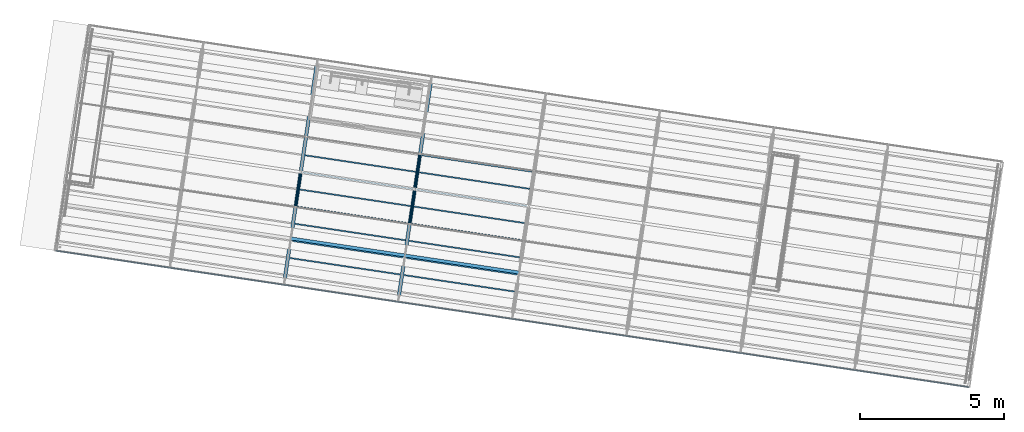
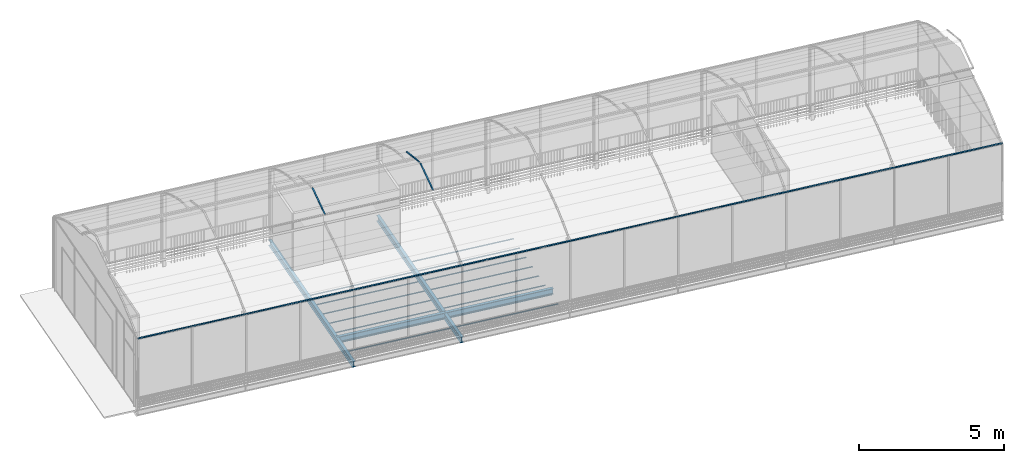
# One storey, part 6 of 34: 19 beams, 4 members, 1 element without a shape of its own.
"""IFC4 building model written with IfcOpenShell, lengths in metres."""

from ifc_helpers import new_model, si_unit, direction, frame, origin_with_axes, place, context, subcontext, project, spatial, polyline, rectangle, i_section, outline, extrude, material, material_profile, profile_set, profile_usage, type_object, element, aggregate, save


model = new_model("IFC4")

# Units and contexts
model_context = context("Model", 3, precision=1e-05, world=origin_with_axes(), true_north=direction((0.0, 1.0)))
body_context = subcontext(model_context, "Body", "Model", "MODEL_VIEW")
ifc_project = project(units=[si_unit("VOLUMEUNIT", "CUBIC_METRE"), si_unit("LENGTHUNIT", "METRE"), si_unit("AREAUNIT", "SQUARE_METRE")], contexts=[model_context])

# Site, building, storey
site_placement = place(None, origin_with_axes())
site = spatial("IfcSite", under=ifc_project, at=site_placement, Name="Lares · Rua das Mercês · artigo 4771")
building_placement = place(site_placement, frame((12.0, 10.2, 13.9), z_axis=(0.0, 0.0, 1.0), x_axis=(0.989015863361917, -0.147809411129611, 0.0)))
building = spatial("IfcBuilding", under=site, at=building_placement, Name="Casa Sobreposta")
storey_placement = place(building_placement, frame((0.0, 0.0, 3.24), z_axis=(0.0, 0.0, 1.0), x_axis=(1.0, 0.0, 0.0)))
storey = spatial("IfcBuildingStorey", under=building, at=storey_placement, Name="01 · Jardim de inverno", Elevation=17.14)

# Beams
ifc_material_1 = material(Name="Aço pintado / Stahl lackiert", Category="steel")
ifc_material_profile_1 = material_profile(ifc_material_1, i_section(OverallWidth=0.12, OverallDepth=0.24, WebThickness=0.0062, FlangeThickness=0.0098))
ifc_profile_set_1 = profile_set([ifc_material_profile_1], Name="IPE240")
ifc_profile_usage_1 = profile_usage(ifc_profile_set_1)
beam_type = type_object("IfcBeamType", Name="IPE240 / steel", PredefinedType="NOTDEFINED", material=ifc_profile_set_1)
beam_1_placement = place(storey_placement, frame((8.0, 0.12, -0.152), z_axis=(1.0, 0.0, 0.0), x_axis=(0.0, -1.0, 0.0)))
element("IfcBeam", 1, at=beam_1_placement, inside=storey, type_object=beam_type, material=ifc_profile_usage_1, Name="Viga longitudinal 8 / 0.12", context=body_context, shape_type="SweptSolid", body=[
    extrude(i_section(OverallWidth=0.12, OverallDepth=0.24, WebThickness=0.0062, FlangeThickness=0.0098), origin_with_axes(), (0.0, 0.0, 1.0), 4.0),
])
ifc_profile_usage_2 = profile_usage(ifc_profile_set_1)
beam_2_placement = place(storey_placement, frame((12.0, 0.12, -0.152), z_axis=(1.0, 0.0, 0.0), x_axis=(0.0, -1.0, 0.0)))
element("IfcBeam", 2, at=beam_2_placement, inside=storey, type_object=beam_type, material=ifc_profile_usage_2, Name="Viga longitudinal 12 / 0.12", context=body_context, shape_type="SweptSolid", body=[
    extrude(i_section(OverallWidth=0.12, OverallDepth=0.24, WebThickness=0.0062, FlangeThickness=0.0098), origin_with_axes(), (0.0, 0.0, 1.0), 4.0),
])
ifc_profile_usage_3 = profile_usage(ifc_profile_set_1)
beam_3_placement = place(storey_placement, frame((8.0, -1.5, -0.152), z_axis=(0.0, 1.0, 0.0), x_axis=(1.0, 0.0, 0.0)))
element("IfcBeam", 3, at=beam_3_placement, inside=storey, type_object=beam_type, material=ifc_profile_usage_3, Name="Viga transversal eixo 8", context=body_context, shape_type="SweptSolid", body=[
    extrude(i_section(OverallWidth=0.12, OverallDepth=0.24, WebThickness=0.0062, FlangeThickness=0.0098), origin_with_axes(), (0.0, 0.0, 1.0), 7.9),
])
ifc_profile_usage_4 = profile_usage(ifc_profile_set_1)
beam_4_placement = place(storey_placement, frame((12.0, -1.5, -0.152), z_axis=(0.0, 1.0, 0.0), x_axis=(1.0, 0.0, 0.0)))
element("IfcBeam", 4, at=beam_4_placement, inside=storey, type_object=beam_type, material=ifc_profile_usage_4, Name="Viga transversal eixo 12", context=body_context, shape_type="SweptSolid", body=[
    extrude(i_section(OverallWidth=0.12, OverallDepth=0.24, WebThickness=0.0062, FlangeThickness=0.0098), origin_with_axes(), (0.0, 0.0, 1.0), 7.9),
])

# Roof, members
ifc_material_2 = material(Name="Vidro / Normalglas", Category="glass")
roof_placement = place(storey_placement, frame((0.0, 0.0, -3.24), z_axis=(0.0, 0.0, 1.0), x_axis=(1.0, 0.0, 0.0)))
roof = element("IfcRoof", 5, at=roof_placement, inside=storey, material=ifc_material_2, Name="Cobertura translúcida da estufa", PredefinedType="BARREL_ROOF")
ifc_material_profile_2 = material_profile(ifc_material_1, rectangle(XDim=0.035, YDim=0.035))
ifc_profile_set_2 = profile_set([ifc_material_profile_2], Name="R0.035")
ifc_profile_usage_5 = profile_usage(ifc_profile_set_2)
member_type = type_object("IfcMemberType", Name="R0.035 / steel", PredefinedType="NOTDEFINED", material=ifc_profile_set_2)
member_1_placement = place(roof_placement, frame((8.0, 1.22042020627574, 7.62067689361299), z_axis=(0.0, 0.960073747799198, 0.279747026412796), x_axis=(1.0, 0.0, 0.0)))
member_1 = element("IfcMember", 6, at=member_1_placement, type_object=member_type, material=ifc_profile_usage_5, Name="Arco estufa 8/7", context=body_context, shape_type="SweptSolid", body=[
    extrude(rectangle(XDim=0.035, YDim=0.035), origin_with_axes(), (0.0, 0.0, 1.0), 1.23148937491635),
])
ifc_profile_usage_6 = profile_usage(ifc_profile_set_2)
member_2_placement = place(roof_placement, frame((12.0, 1.22042020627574, 7.62067689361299), z_axis=(0.0, 0.960073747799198, 0.279747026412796), x_axis=(1.0, 0.0, 0.0)))
member_2 = element("IfcMember", 7, at=member_2_placement, type_object=member_type, material=ifc_profile_usage_6, Name="Arco estufa 12/7", context=body_context, shape_type="SweptSolid", body=[
    extrude(rectangle(XDim=0.035, YDim=0.035), origin_with_axes(), (0.0, 0.0, 1.0), 1.23148937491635),
])
ifc_profile_usage_7 = profile_usage(ifc_profile_set_2)
member_3_placement = place(roof_placement, frame((12.0, 2.49770027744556, 7.96518238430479), z_axis=(0.0, 0.96007374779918, -0.279747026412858), x_axis=(1.0, 0.0, 0.0)))
member_3 = element("IfcMember", 8, at=member_3_placement, type_object=member_type, material=ifc_profile_usage_7, Name="Arco estufa 12/9", context=body_context, shape_type="SweptSolid", body=[
    extrude(rectangle(XDim=0.035, YDim=0.035), origin_with_axes(), (0.0, 0.0, 1.0), 1.23148937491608),
])
ifc_profile_usage_8 = profile_usage(ifc_profile_set_2)
member_4_placement = place(roof_placement, frame((0.0, -1.5, 6.23430000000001), z_axis=(1.0, 0.0, 0.0), x_axis=(0.0, -1.0, 0.0)))
member_4 = element("IfcMember", 9, at=member_4_placement, type_object=member_type, material=ifc_profile_usage_8, Name="Terça da estufa", context=body_context, shape_type="SweptSolid", body=[
    extrude(rectangle(XDim=0.035, YDim=0.035), origin_with_axes(), (0.0, 0.0, 1.0), 32.0),
])
aggregate(roof, [member_1, member_2, member_3, member_4])

# Beams
ifc_material_3 = material(Name="Madeira / Bauholz", Category="wood")
ifc_material_profile_3 = material_profile(ifc_material_3, outline(polyline([(0.022225, -0.12), (0.022225, -0.092), (-0.022225, -0.092), (-0.022225, -0.12), (0.022225, -0.12)])))
ifc_material_4 = material(Name="OSB", Category="wood")
ifc_material_profile_4 = material_profile(ifc_material_4, outline(polyline([(0.0047625, -0.092), (0.0047625, 0.092), (-0.0047625, 0.092), (-0.0047625, -0.092), (0.0047625, -0.092)])))
ifc_material_profile_5 = material_profile(ifc_material_3, outline(polyline([(0.022225, 0.092), (0.022225, 0.12), (-0.022225, 0.12), (-0.022225, 0.092), (0.022225, 0.092)])))
ifc_profile_set_3 = profile_set([ifc_material_profile_3, ifc_material_profile_4, ifc_material_profile_5], Name="TJI240 · madeira / OSB")
ifc_profile_usage_9 = profile_usage(ifc_profile_set_3)
beam_5_placement = place(storey_placement, frame((8.065, -0.55, -0.152), z_axis=(1.0, 0.0, 0.0), x_axis=(0.0, 1.0, 0.0)))
element("IfcBeam", 10, at=beam_5_placement, inside=storey, material=ifc_profile_usage_9, Name="TJI240 · 8.065 / -0.55", context=body_context, shape_type="SweptSolid", body=[
    extrude(outline(polyline([(0.022225, -0.12), (0.022225, -0.092), (-0.022225, -0.092), (-0.022225, -0.12), (0.022225, -0.12)])), origin_with_axes(), (0.0, 0.0, 1.0), 3.87),
    extrude(outline(polyline([(0.022225, -0.12), (0.022225, -0.092), (-0.022225, -0.092), (-0.022225, -0.12), (0.022225, -0.12)])), origin_with_axes(), (0.0, 0.0, 1.0), 3.87),
    extrude(outline(polyline([(0.022225, -0.12), (0.022225, -0.092), (-0.022225, -0.092), (-0.022225, -0.12), (0.022225, -0.12)])), origin_with_axes(), (0.0, 0.0, 1.0), 3.87),
])
ifc_material_profile_6 = material_profile(ifc_material_3, outline(polyline([(0.022225, -0.12), (0.022225, -0.092), (-0.022225, -0.092), (-0.022225, -0.12), (0.022225, -0.12)])))
ifc_material_profile_7 = material_profile(ifc_material_4, outline(polyline([(0.0047625, -0.092), (0.0047625, 0.092), (-0.0047625, 0.092), (-0.0047625, -0.092), (0.0047625, -0.092)])))
ifc_material_profile_8 = material_profile(ifc_material_3, outline(polyline([(0.022225, 0.092), (0.022225, 0.12), (-0.022225, 0.12), (-0.022225, 0.092), (0.022225, 0.092)])))
ifc_profile_set_4 = profile_set([ifc_material_profile_6, ifc_material_profile_7, ifc_material_profile_8], Name="TJI240 · madeira / OSB")
ifc_profile_usage_10 = profile_usage(ifc_profile_set_4)
beam_6_placement = place(storey_placement, frame((12.065, -0.55, -0.152), z_axis=(1.0, 0.0, 0.0), x_axis=(0.0, 1.0, 0.0)))
element("IfcBeam", 11, at=beam_6_placement, inside=storey, material=ifc_profile_usage_10, Name="TJI240 · 12.065 / -0.55", context=body_context, shape_type="SweptSolid", body=[
    extrude(outline(polyline([(0.022225, -0.12), (0.022225, -0.092), (-0.022225, -0.092), (-0.022225, -0.12), (0.022225, -0.12)])), origin_with_axes(), (0.0, 0.0, 1.0), 3.87),
    extrude(outline(polyline([(0.022225, -0.12), (0.022225, -0.092), (-0.022225, -0.092), (-0.022225, -0.12), (0.022225, -0.12)])), origin_with_axes(), (0.0, 0.0, 1.0), 3.87),
    extrude(outline(polyline([(0.022225, -0.12), (0.022225, -0.092), (-0.022225, -0.092), (-0.022225, -0.12), (0.022225, -0.12)])), origin_with_axes(), (0.0, 0.0, 1.0), 3.87),
])
ifc_material_profile_9 = material_profile(ifc_material_3, outline(polyline([(0.022225, -0.12), (0.022225, -0.092), (-0.022225, -0.092), (-0.022225, -0.12), (0.022225, -0.12)])))
ifc_material_profile_10 = material_profile(ifc_material_4, outline(polyline([(0.0047625, -0.092), (0.0047625, 0.092), (-0.0047625, 0.092), (-0.0047625, -0.092), (0.0047625, -0.092)])))
ifc_material_profile_11 = material_profile(ifc_material_3, outline(polyline([(0.022225, 0.092), (0.022225, 0.12), (-0.022225, 0.12), (-0.022225, 0.092), (0.022225, 0.092)])))
ifc_profile_set_5 = profile_set([ifc_material_profile_9, ifc_material_profile_10, ifc_material_profile_11], Name="TJI240 · madeira / OSB")
ifc_profile_usage_11 = profile_usage(ifc_profile_set_5)
beam_7_placement = place(storey_placement, frame((8.065, 0.05, -0.152), z_axis=(1.0, 0.0, 0.0), x_axis=(0.0, 1.0, 0.0)))
element("IfcBeam", 12, at=beam_7_placement, inside=storey, material=ifc_profile_usage_11, Name="TJI240 · 8.065 / 0.05", context=body_context, shape_type="SweptSolid", body=[
    extrude(outline(polyline([(0.022225, -0.12), (0.022225, -0.092), (-0.022225, -0.092), (-0.022225, -0.12), (0.022225, -0.12)])), origin_with_axes(), (0.0, 0.0, 1.0), 3.87),
    extrude(outline(polyline([(0.022225, -0.12), (0.022225, -0.092), (-0.022225, -0.092), (-0.022225, -0.12), (0.022225, -0.12)])), origin_with_axes(), (0.0, 0.0, 1.0), 3.87),
    extrude(outline(polyline([(0.022225, -0.12), (0.022225, -0.092), (-0.022225, -0.092), (-0.022225, -0.12), (0.022225, -0.12)])), origin_with_axes(), (0.0, 0.0, 1.0), 3.87),
])
ifc_material_profile_12 = material_profile(ifc_material_3, outline(polyline([(0.022225, -0.12), (0.022225, -0.092), (-0.022225, -0.092), (-0.022225, -0.12), (0.022225, -0.12)])))
ifc_material_profile_13 = material_profile(ifc_material_4, outline(polyline([(0.0047625, -0.092), (0.0047625, 0.092), (-0.0047625, 0.092), (-0.0047625, -0.092), (0.0047625, -0.092)])))
ifc_material_profile_14 = material_profile(ifc_material_3, outline(polyline([(0.022225, 0.092), (0.022225, 0.12), (-0.022225, 0.12), (-0.022225, 0.092), (0.022225, 0.092)])))
ifc_profile_set_6 = profile_set([ifc_material_profile_12, ifc_material_profile_13, ifc_material_profile_14], Name="TJI240 · madeira / OSB")
ifc_profile_usage_12 = profile_usage(ifc_profile_set_6)
beam_8_placement = place(storey_placement, frame((12.065, 0.05, -0.152), z_axis=(1.0, 0.0, 0.0), x_axis=(0.0, 1.0, 0.0)))
element("IfcBeam", 13, at=beam_8_placement, inside=storey, material=ifc_profile_usage_12, Name="TJI240 · 12.065 / 0.05", context=body_context, shape_type="SweptSolid", body=[
    extrude(outline(polyline([(0.022225, -0.12), (0.022225, -0.092), (-0.022225, -0.092), (-0.022225, -0.12), (0.022225, -0.12)])), origin_with_axes(), (0.0, 0.0, 1.0), 3.87),
    extrude(outline(polyline([(0.022225, -0.12), (0.022225, -0.092), (-0.022225, -0.092), (-0.022225, -0.12), (0.022225, -0.12)])), origin_with_axes(), (0.0, 0.0, 1.0), 3.87),
    extrude(outline(polyline([(0.022225, -0.12), (0.022225, -0.092), (-0.022225, -0.092), (-0.022225, -0.12), (0.022225, -0.12)])), origin_with_axes(), (0.0, 0.0, 1.0), 3.87),
])
ifc_material_profile_15 = material_profile(ifc_material_3, outline(polyline([(0.022225, -0.12), (0.022225, -0.092), (-0.022225, -0.092), (-0.022225, -0.12), (0.022225, -0.12)])))
ifc_material_profile_16 = material_profile(ifc_material_4, outline(polyline([(0.0047625, -0.092), (0.0047625, 0.092), (-0.0047625, 0.092), (-0.0047625, -0.092), (0.0047625, -0.092)])))
ifc_material_profile_17 = material_profile(ifc_material_3, outline(polyline([(0.022225, 0.092), (0.022225, 0.12), (-0.022225, 0.12), (-0.022225, 0.092), (0.022225, 0.092)])))
ifc_profile_set_7 = profile_set([ifc_material_profile_15, ifc_material_profile_16, ifc_material_profile_17], Name="TJI240 · madeira / OSB")
ifc_profile_usage_13 = profile_usage(ifc_profile_set_7)
beam_9_placement = place(storey_placement, frame((8.065, 0.65, -0.152), z_axis=(1.0, 0.0, 0.0), x_axis=(0.0, 1.0, 0.0)))
element("IfcBeam", 14, at=beam_9_placement, inside=storey, material=ifc_profile_usage_13, Name="TJI240 · 8.065 / 0.65", context=body_context, shape_type="SweptSolid", body=[
    extrude(outline(polyline([(0.022225, -0.12), (0.022225, -0.092), (-0.022225, -0.092), (-0.022225, -0.12), (0.022225, -0.12)])), origin_with_axes(), (0.0, 0.0, 1.0), 3.87),
    extrude(outline(polyline([(0.022225, -0.12), (0.022225, -0.092), (-0.022225, -0.092), (-0.022225, -0.12), (0.022225, -0.12)])), origin_with_axes(), (0.0, 0.0, 1.0), 3.87),
    extrude(outline(polyline([(0.022225, -0.12), (0.022225, -0.092), (-0.022225, -0.092), (-0.022225, -0.12), (0.022225, -0.12)])), origin_with_axes(), (0.0, 0.0, 1.0), 3.87),
])
ifc_material_profile_18 = material_profile(ifc_material_3, outline(polyline([(0.022225, -0.12), (0.022225, -0.092), (-0.022225, -0.092), (-0.022225, -0.12), (0.022225, -0.12)])))
ifc_material_profile_19 = material_profile(ifc_material_4, outline(polyline([(0.0047625, -0.092), (0.0047625, 0.092), (-0.0047625, 0.092), (-0.0047625, -0.092), (0.0047625, -0.092)])))
ifc_material_profile_20 = material_profile(ifc_material_3, outline(polyline([(0.022225, 0.092), (0.022225, 0.12), (-0.022225, 0.12), (-0.022225, 0.092), (0.022225, 0.092)])))
ifc_profile_set_8 = profile_set([ifc_material_profile_18, ifc_material_profile_19, ifc_material_profile_20], Name="TJI240 · madeira / OSB")
ifc_profile_usage_14 = profile_usage(ifc_profile_set_8)
beam_10_placement = place(storey_placement, frame((12.065, 0.65, -0.152), z_axis=(1.0, 0.0, 0.0), x_axis=(0.0, 1.0, 0.0)))
element("IfcBeam", 15, at=beam_10_placement, inside=storey, material=ifc_profile_usage_14, Name="TJI240 · 12.065 / 0.65", context=body_context, shape_type="SweptSolid", body=[
    extrude(outline(polyline([(0.022225, -0.12), (0.022225, -0.092), (-0.022225, -0.092), (-0.022225, -0.12), (0.022225, -0.12)])), origin_with_axes(), (0.0, 0.0, 1.0), 3.87),
    extrude(outline(polyline([(0.022225, -0.12), (0.022225, -0.092), (-0.022225, -0.092), (-0.022225, -0.12), (0.022225, -0.12)])), origin_with_axes(), (0.0, 0.0, 1.0), 3.87),
    extrude(outline(polyline([(0.022225, -0.12), (0.022225, -0.092), (-0.022225, -0.092), (-0.022225, -0.12), (0.022225, -0.12)])), origin_with_axes(), (0.0, 0.0, 1.0), 3.87),
])
ifc_material_profile_21 = material_profile(ifc_material_3, outline(polyline([(0.022225, -0.12), (0.022225, -0.092), (-0.022225, -0.092), (-0.022225, -0.12), (0.022225, -0.12)])))
ifc_material_profile_22 = material_profile(ifc_material_4, outline(polyline([(0.0047625, -0.092), (0.0047625, 0.092), (-0.0047625, 0.092), (-0.0047625, -0.092), (0.0047625, -0.092)])))
ifc_material_profile_23 = material_profile(ifc_material_3, outline(polyline([(0.022225, 0.092), (0.022225, 0.12), (-0.022225, 0.12), (-0.022225, 0.092), (0.022225, 0.092)])))
ifc_profile_set_9 = profile_set([ifc_material_profile_21, ifc_material_profile_22, ifc_material_profile_23], Name="TJI240 · madeira / OSB")
ifc_profile_usage_15 = profile_usage(ifc_profile_set_9)
beam_11_placement = place(storey_placement, frame((8.065, 1.25, -0.152), z_axis=(1.0, 0.0, 0.0), x_axis=(0.0, 1.0, 0.0)))
element("IfcBeam", 16, at=beam_11_placement, inside=storey, material=ifc_profile_usage_15, Name="TJI240 · 8.065 / 1.25", context=body_context, shape_type="SweptSolid", body=[
    extrude(outline(polyline([(0.022225, -0.12), (0.022225, -0.092), (-0.022225, -0.092), (-0.022225, -0.12), (0.022225, -0.12)])), origin_with_axes(), (0.0, 0.0, 1.0), 3.87),
    extrude(outline(polyline([(0.022225, -0.12), (0.022225, -0.092), (-0.022225, -0.092), (-0.022225, -0.12), (0.022225, -0.12)])), origin_with_axes(), (0.0, 0.0, 1.0), 3.87),
    extrude(outline(polyline([(0.022225, -0.12), (0.022225, -0.092), (-0.022225, -0.092), (-0.022225, -0.12), (0.022225, -0.12)])), origin_with_axes(), (0.0, 0.0, 1.0), 3.87),
])
ifc_material_profile_24 = material_profile(ifc_material_3, outline(polyline([(0.022225, -0.12), (0.022225, -0.092), (-0.022225, -0.092), (-0.022225, -0.12), (0.022225, -0.12)])))
ifc_material_profile_25 = material_profile(ifc_material_4, outline(polyline([(0.0047625, -0.092), (0.0047625, 0.092), (-0.0047625, 0.092), (-0.0047625, -0.092), (0.0047625, -0.092)])))
ifc_material_profile_26 = material_profile(ifc_material_3, outline(polyline([(0.022225, 0.092), (0.022225, 0.12), (-0.022225, 0.12), (-0.022225, 0.092), (0.022225, 0.092)])))
ifc_profile_set_10 = profile_set([ifc_material_profile_24, ifc_material_profile_25, ifc_material_profile_26], Name="TJI240 · madeira / OSB")
ifc_profile_usage_16 = profile_usage(ifc_profile_set_10)
beam_12_placement = place(storey_placement, frame((12.065, 1.25, -0.152), z_axis=(1.0, 0.0, 0.0), x_axis=(0.0, 1.0, 0.0)))
element("IfcBeam", 17, at=beam_12_placement, inside=storey, material=ifc_profile_usage_16, Name="TJI240 · 12.065 / 1.25", context=body_context, shape_type="SweptSolid", body=[
    extrude(outline(polyline([(0.022225, -0.12), (0.022225, -0.092), (-0.022225, -0.092), (-0.022225, -0.12), (0.022225, -0.12)])), origin_with_axes(), (0.0, 0.0, 1.0), 3.87),
    extrude(outline(polyline([(0.022225, -0.12), (0.022225, -0.092), (-0.022225, -0.092), (-0.022225, -0.12), (0.022225, -0.12)])), origin_with_axes(), (0.0, 0.0, 1.0), 3.87),
    extrude(outline(polyline([(0.022225, -0.12), (0.022225, -0.092), (-0.022225, -0.092), (-0.022225, -0.12), (0.022225, -0.12)])), origin_with_axes(), (0.0, 0.0, 1.0), 3.87),
])
ifc_material_profile_27 = material_profile(ifc_material_3, outline(polyline([(0.022225, -0.12), (0.022225, -0.092), (-0.022225, -0.092), (-0.022225, -0.12), (0.022225, -0.12)])))
ifc_material_profile_28 = material_profile(ifc_material_4, outline(polyline([(0.0047625, -0.092), (0.0047625, 0.092), (-0.0047625, 0.092), (-0.0047625, -0.092), (0.0047625, -0.092)])))
ifc_material_profile_29 = material_profile(ifc_material_3, outline(polyline([(0.022225, 0.092), (0.022225, 0.12), (-0.022225, 0.12), (-0.022225, 0.092), (0.022225, 0.092)])))
ifc_profile_set_11 = profile_set([ifc_material_profile_27, ifc_material_profile_28, ifc_material_profile_29], Name="TJI240 · madeira / OSB")
ifc_profile_usage_17 = profile_usage(ifc_profile_set_11)
beam_13_placement = place(storey_placement, frame((8.065, 1.85, -0.152), z_axis=(1.0, 0.0, 0.0), x_axis=(0.0, 1.0, 0.0)))
element("IfcBeam", 18, at=beam_13_placement, inside=storey, material=ifc_profile_usage_17, Name="TJI240 · 8.065 / 1.85", context=body_context, shape_type="SweptSolid", body=[
    extrude(outline(polyline([(0.022225, -0.12), (0.022225, -0.092), (-0.022225, -0.092), (-0.022225, -0.12), (0.022225, -0.12)])), origin_with_axes(), (0.0, 0.0, 1.0), 3.87),
    extrude(outline(polyline([(0.022225, -0.12), (0.022225, -0.092), (-0.022225, -0.092), (-0.022225, -0.12), (0.022225, -0.12)])), origin_with_axes(), (0.0, 0.0, 1.0), 3.87),
    extrude(outline(polyline([(0.022225, -0.12), (0.022225, -0.092), (-0.022225, -0.092), (-0.022225, -0.12), (0.022225, -0.12)])), origin_with_axes(), (0.0, 0.0, 1.0), 3.87),
])
ifc_material_profile_30 = material_profile(ifc_material_3, outline(polyline([(0.022225, -0.12), (0.022225, -0.092), (-0.022225, -0.092), (-0.022225, -0.12), (0.022225, -0.12)])))
ifc_material_profile_31 = material_profile(ifc_material_4, outline(polyline([(0.0047625, -0.092), (0.0047625, 0.092), (-0.0047625, 0.092), (-0.0047625, -0.092), (0.0047625, -0.092)])))
ifc_material_profile_32 = material_profile(ifc_material_3, outline(polyline([(0.022225, 0.092), (0.022225, 0.12), (-0.022225, 0.12), (-0.022225, 0.092), (0.022225, 0.092)])))
ifc_profile_set_12 = profile_set([ifc_material_profile_30, ifc_material_profile_31, ifc_material_profile_32], Name="TJI240 · madeira / OSB")
ifc_profile_usage_18 = profile_usage(ifc_profile_set_12)
beam_14_placement = place(storey_placement, frame((12.065, 1.85, -0.152), z_axis=(1.0, 0.0, 0.0), x_axis=(0.0, 1.0, 0.0)))
element("IfcBeam", 19, at=beam_14_placement, inside=storey, material=ifc_profile_usage_18, Name="TJI240 · 12.065 / 1.85", context=body_context, shape_type="SweptSolid", body=[
    extrude(outline(polyline([(0.022225, -0.12), (0.022225, -0.092), (-0.022225, -0.092), (-0.022225, -0.12), (0.022225, -0.12)])), origin_with_axes(), (0.0, 0.0, 1.0), 3.87),
    extrude(outline(polyline([(0.022225, -0.12), (0.022225, -0.092), (-0.022225, -0.092), (-0.022225, -0.12), (0.022225, -0.12)])), origin_with_axes(), (0.0, 0.0, 1.0), 3.87),
    extrude(outline(polyline([(0.022225, -0.12), (0.022225, -0.092), (-0.022225, -0.092), (-0.022225, -0.12), (0.022225, -0.12)])), origin_with_axes(), (0.0, 0.0, 1.0), 3.87),
])
ifc_material_profile_33 = material_profile(ifc_material_3, outline(polyline([(0.022225, -0.12), (0.022225, -0.092), (-0.022225, -0.092), (-0.022225, -0.12), (0.022225, -0.12)])))
ifc_material_profile_34 = material_profile(ifc_material_4, outline(polyline([(0.0047625, -0.092), (0.0047625, 0.092), (-0.0047625, 0.092), (-0.0047625, -0.092), (0.0047625, -0.092)])))
ifc_material_profile_35 = material_profile(ifc_material_3, outline(polyline([(0.022225, 0.092), (0.022225, 0.12), (-0.022225, 0.12), (-0.022225, 0.092), (0.022225, 0.092)])))
ifc_profile_set_13 = profile_set([ifc_material_profile_33, ifc_material_profile_34, ifc_material_profile_35], Name="TJI240 · madeira / OSB")
ifc_profile_usage_19 = profile_usage(ifc_profile_set_13)
beam_15_placement = place(storey_placement, frame((8.065, 2.45, -0.152), z_axis=(1.0, 0.0, 0.0), x_axis=(0.0, 1.0, 0.0)))
element("IfcBeam", 20, at=beam_15_placement, inside=storey, material=ifc_profile_usage_19, Name="TJI240 · 8.065 / 2.45", context=body_context, shape_type="SweptSolid", body=[
    extrude(outline(polyline([(0.022225, -0.12), (0.022225, -0.092), (-0.022225, -0.092), (-0.022225, -0.12), (0.022225, -0.12)])), origin_with_axes(), (0.0, 0.0, 1.0), 3.87),
    extrude(outline(polyline([(0.022225, -0.12), (0.022225, -0.092), (-0.022225, -0.092), (-0.022225, -0.12), (0.022225, -0.12)])), origin_with_axes(), (0.0, 0.0, 1.0), 3.87),
    extrude(outline(polyline([(0.022225, -0.12), (0.022225, -0.092), (-0.022225, -0.092), (-0.022225, -0.12), (0.022225, -0.12)])), origin_with_axes(), (0.0, 0.0, 1.0), 3.87),
])
ifc_material_profile_36 = material_profile(ifc_material_3, outline(polyline([(0.022225, -0.12), (0.022225, -0.092), (-0.022225, -0.092), (-0.022225, -0.12), (0.022225, -0.12)])))
ifc_material_profile_37 = material_profile(ifc_material_4, outline(polyline([(0.0047625, -0.092), (0.0047625, 0.092), (-0.0047625, 0.092), (-0.0047625, -0.092), (0.0047625, -0.092)])))
ifc_material_profile_38 = material_profile(ifc_material_3, outline(polyline([(0.022225, 0.092), (0.022225, 0.12), (-0.022225, 0.12), (-0.022225, 0.092), (0.022225, 0.092)])))
ifc_profile_set_14 = profile_set([ifc_material_profile_36, ifc_material_profile_37, ifc_material_profile_38], Name="TJI240 · madeira / OSB")
ifc_profile_usage_20 = profile_usage(ifc_profile_set_14)
beam_16_placement = place(storey_placement, frame((12.065, 2.45, -0.152), z_axis=(1.0, 0.0, 0.0), x_axis=(0.0, 1.0, 0.0)))
element("IfcBeam", 21, at=beam_16_placement, inside=storey, material=ifc_profile_usage_20, Name="TJI240 · 12.065 / 2.45", context=body_context, shape_type="SweptSolid", body=[
    extrude(outline(polyline([(0.022225, -0.12), (0.022225, -0.092), (-0.022225, -0.092), (-0.022225, -0.12), (0.022225, -0.12)])), origin_with_axes(), (0.0, 0.0, 1.0), 3.87),
    extrude(outline(polyline([(0.022225, -0.12), (0.022225, -0.092), (-0.022225, -0.092), (-0.022225, -0.12), (0.022225, -0.12)])), origin_with_axes(), (0.0, 0.0, 1.0), 3.87),
    extrude(outline(polyline([(0.022225, -0.12), (0.022225, -0.092), (-0.022225, -0.092), (-0.022225, -0.12), (0.022225, -0.12)])), origin_with_axes(), (0.0, 0.0, 1.0), 3.87),
])
ifc_material_profile_39 = material_profile(ifc_material_3, outline(polyline([(0.022225, -0.12), (0.022225, -0.092), (-0.022225, -0.092), (-0.022225, -0.12), (0.022225, -0.12)])))
ifc_material_profile_40 = material_profile(ifc_material_4, outline(polyline([(0.0047625, -0.092), (0.0047625, 0.092), (-0.0047625, 0.092), (-0.0047625, -0.092), (0.0047625, -0.092)])))
ifc_material_profile_41 = material_profile(ifc_material_3, outline(polyline([(0.022225, 0.092), (0.022225, 0.12), (-0.022225, 0.12), (-0.022225, 0.092), (0.022225, 0.092)])))
ifc_profile_set_15 = profile_set([ifc_material_profile_39, ifc_material_profile_40, ifc_material_profile_41], Name="TJI240 · madeira / OSB")
ifc_profile_usage_21 = profile_usage(ifc_profile_set_15)
beam_17_placement = place(storey_placement, frame((8.065, 3.05, -0.152), z_axis=(1.0, 0.0, 0.0), x_axis=(0.0, 1.0, 0.0)))
element("IfcBeam", 22, at=beam_17_placement, inside=storey, material=ifc_profile_usage_21, Name="TJI240 · 8.065 / 3.05", context=body_context, shape_type="SweptSolid", body=[
    extrude(outline(polyline([(0.022225, -0.12), (0.022225, -0.092), (-0.022225, -0.092), (-0.022225, -0.12), (0.022225, -0.12)])), origin_with_axes(), (0.0, 0.0, 1.0), 3.87),
    extrude(outline(polyline([(0.022225, -0.12), (0.022225, -0.092), (-0.022225, -0.092), (-0.022225, -0.12), (0.022225, -0.12)])), origin_with_axes(), (0.0, 0.0, 1.0), 3.87),
    extrude(outline(polyline([(0.022225, -0.12), (0.022225, -0.092), (-0.022225, -0.092), (-0.022225, -0.12), (0.022225, -0.12)])), origin_with_axes(), (0.0, 0.0, 1.0), 3.87),
])
ifc_material_profile_42 = material_profile(ifc_material_3, outline(polyline([(0.022225, -0.12), (0.022225, -0.092), (-0.022225, -0.092), (-0.022225, -0.12), (0.022225, -0.12)])))
ifc_material_profile_43 = material_profile(ifc_material_4, outline(polyline([(0.0047625, -0.092), (0.0047625, 0.092), (-0.0047625, 0.092), (-0.0047625, -0.092), (0.0047625, -0.092)])))
ifc_material_profile_44 = material_profile(ifc_material_3, outline(polyline([(0.022225, 0.092), (0.022225, 0.12), (-0.022225, 0.12), (-0.022225, 0.092), (0.022225, 0.092)])))
ifc_profile_set_16 = profile_set([ifc_material_profile_42, ifc_material_profile_43, ifc_material_profile_44], Name="TJI240 · madeira / OSB")
ifc_profile_usage_22 = profile_usage(ifc_profile_set_16)
beam_18_placement = place(storey_placement, frame((12.065, 3.05, -0.152), z_axis=(1.0, 0.0, 0.0), x_axis=(0.0, 1.0, 0.0)))
element("IfcBeam", 23, at=beam_18_placement, inside=storey, material=ifc_profile_usage_22, Name="TJI240 · 12.065 / 3.05", context=body_context, shape_type="SweptSolid", body=[
    extrude(outline(polyline([(0.022225, -0.12), (0.022225, -0.092), (-0.022225, -0.092), (-0.022225, -0.12), (0.022225, -0.12)])), origin_with_axes(), (0.0, 0.0, 1.0), 3.87),
    extrude(outline(polyline([(0.022225, -0.12), (0.022225, -0.092), (-0.022225, -0.092), (-0.022225, -0.12), (0.022225, -0.12)])), origin_with_axes(), (0.0, 0.0, 1.0), 3.87),
    extrude(outline(polyline([(0.022225, -0.12), (0.022225, -0.092), (-0.022225, -0.092), (-0.022225, -0.12), (0.022225, -0.12)])), origin_with_axes(), (0.0, 0.0, 1.0), 3.87),
])
ifc_material_profile_45 = material_profile(ifc_material_3, outline(polyline([(0.022225, -0.12), (0.022225, -0.092), (-0.022225, -0.092), (-0.022225, -0.12), (0.022225, -0.12)])))
ifc_material_profile_46 = material_profile(ifc_material_4, outline(polyline([(0.0047625, -0.092), (0.0047625, 0.092), (-0.0047625, 0.092), (-0.0047625, -0.092), (0.0047625, -0.092)])))
ifc_material_profile_47 = material_profile(ifc_material_3, outline(polyline([(0.022225, 0.092), (0.022225, 0.12), (-0.022225, 0.12), (-0.022225, 0.092), (0.022225, 0.092)])))
ifc_profile_set_17 = profile_set([ifc_material_profile_45, ifc_material_profile_46, ifc_material_profile_47], Name="TJI240 · madeira / OSB")
ifc_profile_usage_23 = profile_usage(ifc_profile_set_17)
beam_19_placement = place(storey_placement, frame((12.065, 3.65, -0.152), z_axis=(1.0, 0.0, 0.0), x_axis=(0.0, 1.0, 0.0)))
element("IfcBeam", 24, at=beam_19_placement, inside=storey, material=ifc_profile_usage_23, Name="TJI240 · 12.065 / 3.65", context=body_context, shape_type="SweptSolid", body=[
    extrude(outline(polyline([(0.022225, -0.12), (0.022225, -0.092), (-0.022225, -0.092), (-0.022225, -0.12), (0.022225, -0.12)])), origin_with_axes(), (0.0, 0.0, 1.0), 3.87),
    extrude(outline(polyline([(0.022225, -0.12), (0.022225, -0.092), (-0.022225, -0.092), (-0.022225, -0.12), (0.022225, -0.12)])), origin_with_axes(), (0.0, 0.0, 1.0), 3.87),
    extrude(outline(polyline([(0.022225, -0.12), (0.022225, -0.092), (-0.022225, -0.092), (-0.022225, -0.12), (0.022225, -0.12)])), origin_with_axes(), (0.0, 0.0, 1.0), 3.87),
])

save(model, "model.ifc")
